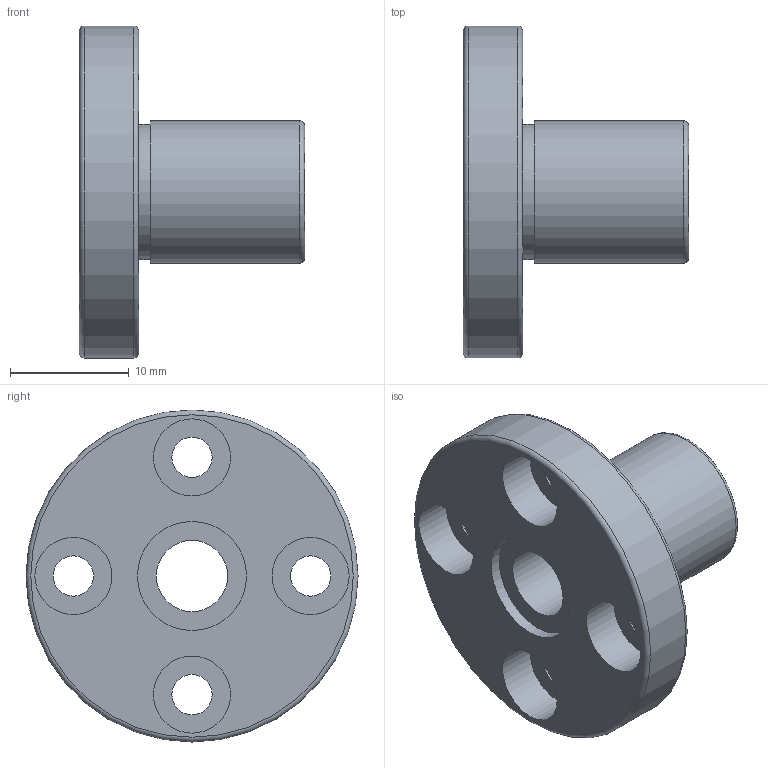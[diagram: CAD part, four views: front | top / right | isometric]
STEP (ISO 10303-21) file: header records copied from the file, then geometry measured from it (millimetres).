
FILE_DESCRIPTION( ( 'Unknown' ), '1' );
FILE_NAME( 'D:/累诀/己绕皋墨飘肺葱胶/11-04-06_档搁累己/01_府聪绢何教/LMF/LMF 6.stp', 'Unknown', ( 'Unknown' ), ( 'Unknown' ), 'PSStep 11.0', 'Unknown', ' ' );
FILE_SCHEMA( ( 'AUTOMOTIVE_DESIGN { 1 0 10303 214 1 1 1 1 }' ) );
Length unit declared in the file: millimetre
Products named in the file (1): 1
Bounding box: 19 x 28 x 28 mm (x, y, z)
Volume: 3534.3 mm3; surface area: 2772.6 mm2
Topology: 1 solids, 1 shells, 27 faces, 52 edges, 35 vertices
Faces by surface type: cylinder 14, plane 10, torus 3
Full cylindrical faces by diameter (mm): 3.4 x4, 6 x1, 6.5 x4, 9.2 x2, 11.4 x1, 12 x1, 28 x1
Entity records: 836 total; most frequent: DIRECTION 118, CARTESIAN_POINT 90, EDGE_LOOP 62, ORIENTED_EDGE 62, AXIS2_PLACEMENT_3D 59, FACE_OUTER_BOUND 44, EDGE_CURVE 31, VERTEX_POINT 31
